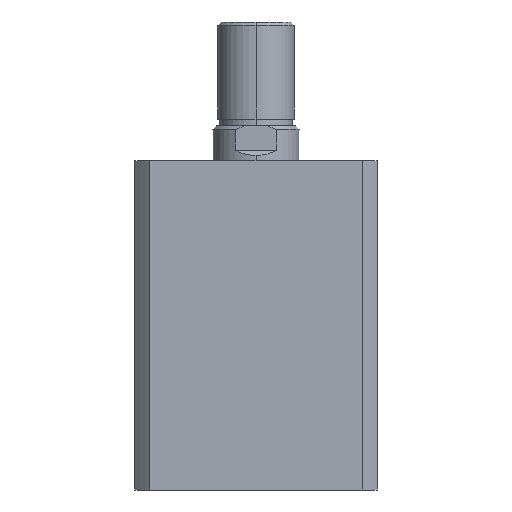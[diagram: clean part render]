
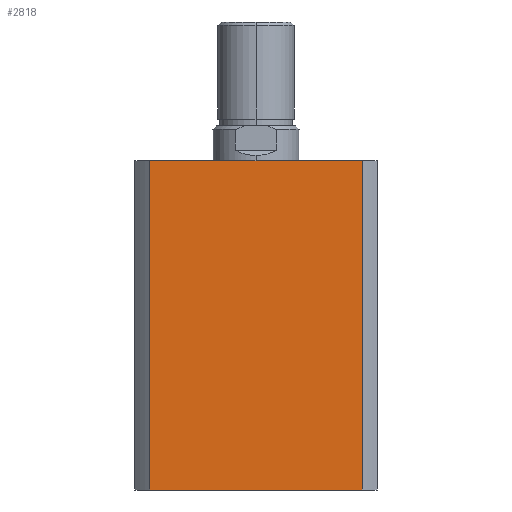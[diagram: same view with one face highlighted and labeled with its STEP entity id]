
A CAD part, left-side view. The second image highlights one B-rep face of the part: STEP entity #2818.
In plain terms, the highlighted planar face has unit normal (-1, 0, 0).
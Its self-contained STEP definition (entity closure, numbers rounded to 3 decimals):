
#361 = CARTESIAN_POINT ( 'NONE',  ( -35., 0., 95. ) ) ;
#366 = PLANE ( 'NONE',  #781 ) ;
#369 = DIRECTION ( 'NONE',  ( 1., 0., 0. ) ) ;
#370 = DIRECTION ( 'NONE',  ( 0., 1., 0. ) ) ;
#463 = CARTESIAN_POINT ( 'NONE',  ( -35., 0., 0. ) ) ;
#472 = CARTESIAN_POINT ( 'NONE',  ( -35., 30.615, 95. ) ) ;
#474 = DIRECTION ( 'NONE',  ( 0., 0., -1. ) ) ;
#475 = DIRECTION ( 'NONE',  ( 0., -1., 0. ) ) ;
#476 = CARTESIAN_POINT ( 'NONE',  ( -35., -30.615, 95. ) ) ;
#478 = DIRECTION ( 'NONE',  ( 0., 0., -1. ) ) ;
#572 = CARTESIAN_POINT ( 'NONE',  ( -35., 30.615, 0. ) ) ;
#718 = CARTESIAN_POINT ( 'NONE',  ( -35., -30.615, 95. ) ) ;
#719 = CARTESIAN_POINT ( 'NONE',  ( -35., -30.615, 0. ) ) ;
#729 = CARTESIAN_POINT ( 'NONE',  ( -35., 30.615, 95. ) ) ;
#781 = AXIS2_PLACEMENT_3D ( 'NONE', #361, #369, #370 ) ;
#1028 = LINE ( 'NONE', #3068, #1031 ) ;
#1031 = VECTOR ( 'NONE', #3067, 1000. ) ;
#1618 = EDGE_CURVE ( 'NONE', #5160, #5143, #1028, .T. ) ;
#2579 = EDGE_LOOP ( 'NONE', ( #3433, #3434, #3435, #3436 ) ) ;
#2818 = ADVANCED_FACE ( 'NONE', ( #4065 ), #366, .F. ) ;
#3067 = DIRECTION ( 'NONE',  ( 0., -1., 0. ) ) ;
#3068 = CARTESIAN_POINT ( 'NONE',  ( -35., 0., 95. ) ) ;
#3150 = EDGE_CURVE ( 'NONE', #5160, #4961, #4125, .T. ) ;
#3151 = EDGE_CURVE ( 'NONE', #4961, #5157, #4131, .T. ) ;
#3152 = EDGE_CURVE ( 'NONE', #5143, #5157, #4133, .T. ) ;
#3433 = ORIENTED_EDGE ( 'NONE', *, *, #3151, .T. ) ;
#3434 = ORIENTED_EDGE ( 'NONE', *, *, #3152, .F. ) ;
#3435 = ORIENTED_EDGE ( 'NONE', *, *, #1618, .F. ) ;
#3436 = ORIENTED_EDGE ( 'NONE', *, *, #3150, .T. ) ;
#4065 = FACE_OUTER_BOUND ( 'NONE', #2579, .T. ) ;
#4125 = LINE ( 'NONE', #472, #4129 ) ;
#4129 = VECTOR ( 'NONE', #474, 1000. ) ;
#4131 = LINE ( 'NONE', #463, #4134 ) ;
#4133 = LINE ( 'NONE', #476, #4136 ) ;
#4134 = VECTOR ( 'NONE', #475, 1000. ) ;
#4136 = VECTOR ( 'NONE', #478, 1000. ) ;
#4961 = VERTEX_POINT ( 'NONE', #572 ) ;
#5143 = VERTEX_POINT ( 'NONE', #718 ) ;
#5157 = VERTEX_POINT ( 'NONE', #719 ) ;
#5160 = VERTEX_POINT ( 'NONE', #729 ) ;
